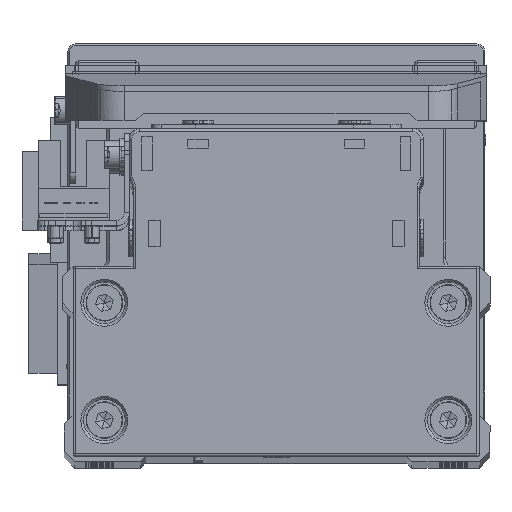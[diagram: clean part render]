
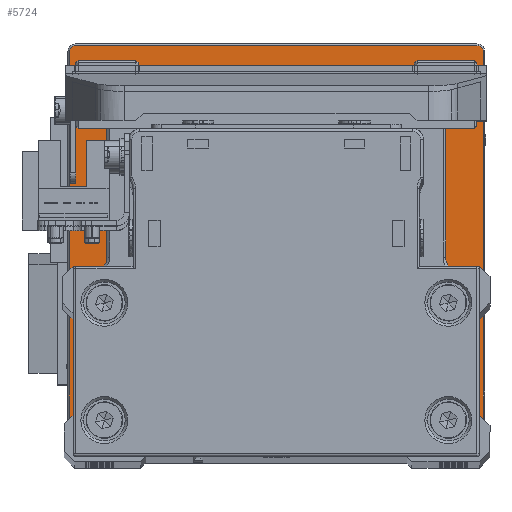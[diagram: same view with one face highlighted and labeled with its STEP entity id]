
A CAD part, top view. The second image highlights one B-rep face of the part: STEP entity #5724.
In plain terms, the highlighted planar face has unit normal (0, 0, 1) as drawn and (0, 1, 0) by its records, which use the part's own axes.
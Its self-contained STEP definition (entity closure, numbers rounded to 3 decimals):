
#180 = CARTESIAN_POINT ( 'NONE',  ( 0., 12., 0. ) ) ;
#891 = CARTESIAN_POINT ( 'NONE',  ( -39.7, 12., -38.5 ) ) ;
#1031 = EDGE_LOOP ( 'NONE', ( #13928, #4823, #18619, #18181, #37513, #36181, #28533, #24975 ) ) ;
#1316 = AXIS2_PLACEMENT_3D ( 'NONE', #20282, #32507, #5080 ) ;
#1337 = AXIS2_PLACEMENT_3D ( 'NONE', #180, #12366, #24566 ) ;
#1461 = LINE ( 'NONE', #13659, #10763 ) ;
#1925 = VERTEX_POINT ( 'NONE', #6214 ) ;
#3184 = FACE_OUTER_BOUND ( 'NONE', #1031, .T. ) ;
#3565 = CIRCLE ( 'NONE', #25924, 1.2 ) ;
#3616 = CARTESIAN_POINT ( 'NONE',  ( 0., 12., 20.5 ) ) ;
#3810 = AXIS2_PLACEMENT_3D ( 'NONE', #14549, #26749, #38978 ) ;
#3946 = DIRECTION ( 'NONE',  ( 0., 0., -1. ) ) ;
#4642 = VECTOR ( 'NONE', #20237, 1000. ) ;
#4749 = EDGE_CURVE ( 'NONE', #21042, #26770, #21068, .T. ) ;
#4823 = ORIENTED_EDGE ( 'NONE', *, *, #10087, .T. ) ;
#5080 = DIRECTION ( 'NONE',  ( 0., 0., 1. ) ) ;
#5195 = CARTESIAN_POINT ( 'NONE',  ( -38.5, 12., 38.5 ) ) ;
#5222 = DIRECTION ( 'NONE',  ( 0., 1., 0. ) ) ;
#5591 = CIRCLE ( 'NONE', #27931, 20.5 ) ;
#5724 = ADVANCED_FACE ( 'NONE', ( #3184, #15379 ), #27585, .F. ) ;
#6214 = CARTESIAN_POINT ( 'NONE',  ( -39.7, 12., 38.5 ) ) ;
#6480 = AXIS2_PLACEMENT_3D ( 'NONE', #5195, #17387, #29602 ) ;
#6696 = CARTESIAN_POINT ( 'NONE',  ( 0., 12., 0. ) ) ;
#7246 = CARTESIAN_POINT ( 'NONE',  ( 0., 12., -20.5 ) ) ;
#8030 = CARTESIAN_POINT ( 'NONE',  ( 0., 12., 39.7 ) ) ;
#8363 = DIRECTION ( 'NONE',  ( 0., 0., 1. ) ) ;
#9383 = CARTESIAN_POINT ( 'NONE',  ( 38.5, 12., -39.7 ) ) ;
#10087 = EDGE_CURVE ( 'NONE', #34847, #31641, #10258, .T. ) ;
#10092 = VERTEX_POINT ( 'NONE', #7246 ) ;
#10258 = LINE ( 'NONE', #22458, #19583 ) ;
#10444 = VERTEX_POINT ( 'NONE', #3616 ) ;
#10763 = VECTOR ( 'NONE', #25860, 1000. ) ;
#11037 = ORIENTED_EDGE ( 'NONE', *, *, #23785, .F. ) ;
#12020 = VERTEX_POINT ( 'NONE', #891 ) ;
#12366 = DIRECTION ( 'NONE',  ( 0., -1., 0. ) ) ;
#12433 = VERTEX_POINT ( 'NONE', #31811 ) ;
#13489 = CARTESIAN_POINT ( 'NONE',  ( -38.5, 12., -39.7 ) ) ;
#13659 = CARTESIAN_POINT ( 'NONE',  ( 39.7, 12., 0. ) ) ;
#13928 = ORIENTED_EDGE ( 'NONE', *, *, #36591, .T. ) ;
#14322 = EDGE_CURVE ( 'NONE', #12020, #1925, #23562, .T. ) ;
#14549 = CARTESIAN_POINT ( 'NONE',  ( 38.5, 12., 38.5 ) ) ;
#15379 = FACE_BOUND ( 'NONE', #22897, .T. ) ;
#17190 = CIRCLE ( 'NONE', #38048, 1.2 ) ;
#17387 = DIRECTION ( 'NONE',  ( 0., 1., 0. ) ) ;
#17412 = DIRECTION ( 'NONE',  ( 0., 0., -1. ) ) ;
#18181 = ORIENTED_EDGE ( 'NONE', *, *, #14322, .T. ) ;
#18563 = CIRCLE ( 'NONE', #1316, 20.5 ) ;
#18606 = CIRCLE ( 'NONE', #6480, 1.2 ) ;
#18619 = ORIENTED_EDGE ( 'NONE', *, *, #22716, .T. ) ;
#18891 = DIRECTION ( 'NONE',  ( 0., 1., 0. ) ) ;
#19122 = CARTESIAN_POINT ( 'NONE',  ( 38.5, 12., -38.5 ) ) ;
#19583 = VECTOR ( 'NONE', #34682, 1000. ) ;
#20219 = ORIENTED_EDGE ( 'NONE', *, *, #30414, .F. ) ;
#20237 = DIRECTION ( 'NONE',  ( 1., 0., 0. ) ) ;
#20282 = CARTESIAN_POINT ( 'NONE',  ( 0., 12., 0. ) ) ;
#21042 = VERTEX_POINT ( 'NONE', #22240 ) ;
#21068 = CIRCLE ( 'NONE', #3810, 1.2 ) ;
#21212 = EDGE_CURVE ( 'NONE', #27583, #21042, #35466, .T. ) ;
#21710 = EDGE_CURVE ( 'NONE', #1925, #27583, #18606, .T. ) ;
#22240 = CARTESIAN_POINT ( 'NONE',  ( 38.5, 12., 39.7 ) ) ;
#22458 = CARTESIAN_POINT ( 'NONE',  ( 0., 12., -39.7 ) ) ;
#22716 = EDGE_CURVE ( 'NONE', #31641, #12020, #17190, .T. ) ;
#22897 = EDGE_LOOP ( 'NONE', ( #11037, #20219 ) ) ;
#23562 = LINE ( 'NONE', #35789, #31485 ) ;
#23785 = EDGE_CURVE ( 'NONE', #10444, #10092, #5591, .T. ) ;
#24566 = DIRECTION ( 'NONE',  ( 0., 0., -1. ) ) ;
#24975 = ORIENTED_EDGE ( 'NONE', *, *, #39037, .T. ) ;
#25860 = DIRECTION ( 'NONE',  ( 0., 0., -1. ) ) ;
#25924 = AXIS2_PLACEMENT_3D ( 'NONE', #19122, #31356, #3946 ) ;
#26749 = DIRECTION ( 'NONE',  ( 0., 1., 0. ) ) ;
#26770 = VERTEX_POINT ( 'NONE', #35265 ) ;
#27583 = VERTEX_POINT ( 'NONE', #31354 ) ;
#27585 = PLANE ( 'NONE',  #1337 ) ;
#27931 = AXIS2_PLACEMENT_3D ( 'NONE', #6696, #18891, #31118 ) ;
#28533 = ORIENTED_EDGE ( 'NONE', *, *, #4749, .T. ) ;
#29602 = DIRECTION ( 'NONE',  ( 0., 0., -1. ) ) ;
#30414 = EDGE_CURVE ( 'NONE', #10092, #10444, #18563, .T. ) ;
#31118 = DIRECTION ( 'NONE',  ( 0., 0., 1. ) ) ;
#31354 = CARTESIAN_POINT ( 'NONE',  ( -38.5, 12., 39.7 ) ) ;
#31356 = DIRECTION ( 'NONE',  ( 0., 1., 0. ) ) ;
#31485 = VECTOR ( 'NONE', #8363, 1000. ) ;
#31641 = VERTEX_POINT ( 'NONE', #13489 ) ;
#31811 = CARTESIAN_POINT ( 'NONE',  ( 39.7, 12., -38.5 ) ) ;
#32507 = DIRECTION ( 'NONE',  ( 0., 1., 0. ) ) ;
#32642 = CARTESIAN_POINT ( 'NONE',  ( -38.5, 12., -38.5 ) ) ;
#34682 = DIRECTION ( 'NONE',  ( -1., 0., 0. ) ) ;
#34847 = VERTEX_POINT ( 'NONE', #9383 ) ;
#35265 = CARTESIAN_POINT ( 'NONE',  ( 39.7, 12., 38.5 ) ) ;
#35466 = LINE ( 'NONE', #8030, #4642 ) ;
#35789 = CARTESIAN_POINT ( 'NONE',  ( -39.7, 12., 0. ) ) ;
#36181 = ORIENTED_EDGE ( 'NONE', *, *, #21212, .T. ) ;
#36591 = EDGE_CURVE ( 'NONE', #12433, #34847, #3565, .T. ) ;
#37513 = ORIENTED_EDGE ( 'NONE', *, *, #21710, .T. ) ;
#38048 = AXIS2_PLACEMENT_3D ( 'NONE', #32642, #5222, #17412 ) ;
#38978 = DIRECTION ( 'NONE',  ( 0., 0., -1. ) ) ;
#39037 = EDGE_CURVE ( 'NONE', #26770, #12433, #1461, .T. ) ;
